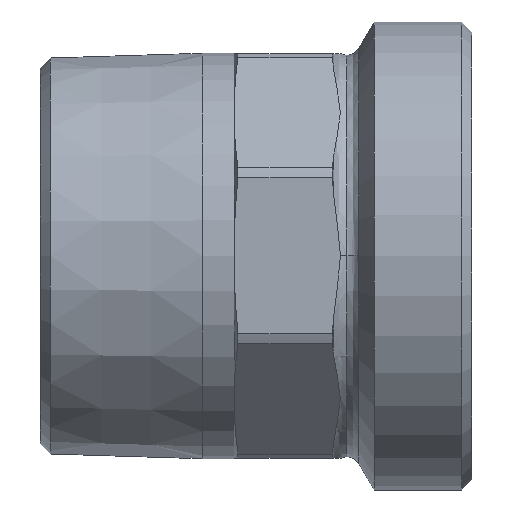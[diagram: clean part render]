
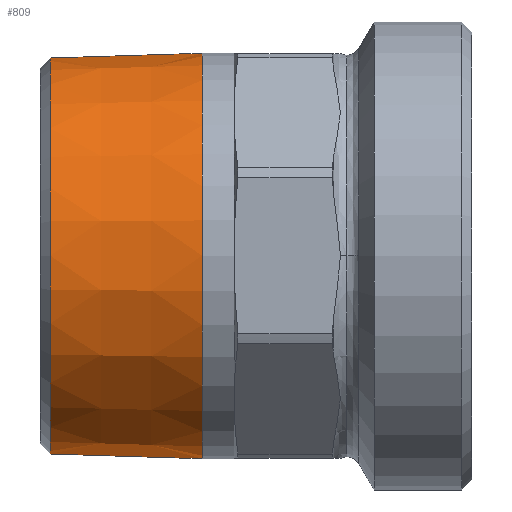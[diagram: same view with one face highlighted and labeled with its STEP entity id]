
A CAD part, top view. The second image highlights one B-rep face of the part: STEP entity #809.
In plain terms, the highlighted conical face has half-angle 1.78 degrees and reference radius 29.683 mm.
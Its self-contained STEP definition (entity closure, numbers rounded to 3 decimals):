
#264=CARTESIAN_POINT('',(24.,30.056,0.0));
#265=VERTEX_POINT('',#264);
#274=CARTESIAN_POINT('',(24.,-30.056,0.));
#275=VERTEX_POINT('',#274);
#276=CARTESIAN_POINT('',(24.,0.0,0.0));
#277=DIRECTION('',(1.0,0.0,0.0));
#278=DIRECTION('',(0.0,1.0,0.0));
#279=AXIS2_PLACEMENT_3D('',#276,#277,#278);
#280=CIRCLE('',#279,30.056);
#281=EDGE_CURVE('',#265,#275,#280,.T.);
#778=CARTESIAN_POINT('',(12.,0.0,0.0));
#779=DIRECTION('',(1.0,0.0,0.0));
#780=DIRECTION('',(0.0,1.0,0.0));
#781=AXIS2_PLACEMENT_3D('',#778,#779,#780);
#782=CONICAL_SURFACE('',#781,29.683,1.78);
#783=CARTESIAN_POINT('',(1.499,29.357,0.));
#784=VERTEX_POINT('',#783);
#785=CARTESIAN_POINT('',(1.499,29.357,0.));
#786=DIRECTION('',(1.,0.031,0.));
#787=VECTOR('',#786,22.512);
#788=LINE('',#785,#787);
#789=EDGE_CURVE('',#784,#265,#788,.T.);
#790=ORIENTED_EDGE('',*,*,#789,.F.);
#791=CARTESIAN_POINT('',(1.499,-29.357,0.));
#792=VERTEX_POINT('',#791);
#793=CARTESIAN_POINT('',(1.499,0.0,0.));
#794=DIRECTION('',(-1.0,0.0,0.0));
#795=DIRECTION('',(0.0,-1.0,0.0));
#796=AXIS2_PLACEMENT_3D('',#793,#794,#795);
#797=CIRCLE('',#796,29.357);
#798=EDGE_CURVE('',#792,#784,#797,.T.);
#799=ORIENTED_EDGE('',*,*,#798,.F.);
#800=CARTESIAN_POINT('',(24.,-30.056,0.));
#801=DIRECTION('',(-1.,0.031,0.));
#802=VECTOR('',#801,22.512);
#803=LINE('',#800,#802);
#804=EDGE_CURVE('',#275,#792,#803,.T.);
#805=ORIENTED_EDGE('',*,*,#804,.F.);
#806=ORIENTED_EDGE('',*,*,#281,.F.);
#807=EDGE_LOOP('',(#790,#799,#805,#806));
#808=FACE_OUTER_BOUND('',#807,.T.);
#809=ADVANCED_FACE('',(#808),#782,.T.);
